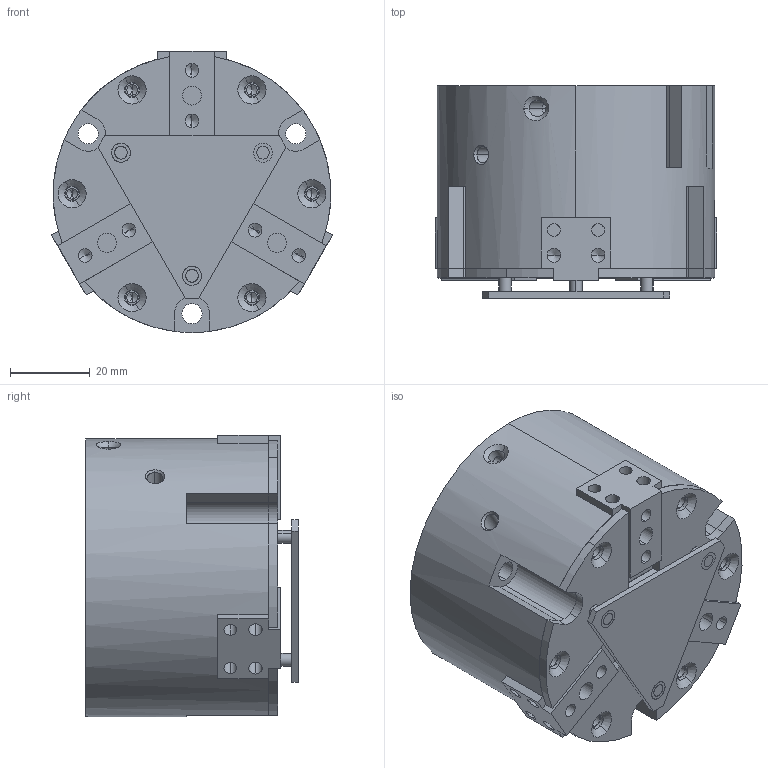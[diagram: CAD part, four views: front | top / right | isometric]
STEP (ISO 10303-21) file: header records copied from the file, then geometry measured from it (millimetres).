
FILE_DESCRIPTION (( 'STEP AP203' ), '1' );
FILE_NAME ('AGP-43 CLOSED in MM.STEP', '2014-11-05T14:15:39', ( 'setup' ), ( '' ), 'SwSTEP 2.0', 'SolidWorks 2013', '' );
FILE_SCHEMA (( 'CONFIG_CONTROL_DESIGN' ));
Length unit declared in the file: millimetre
Products named in the file (7): AGP-43 JAW; AGP-43 PIN; AGP-43 CLOSED in MM; AGP-43 STRIPPER; AGP-43 BUSHING; AGP-43 BODY; AGP-43 CAP
Assembly tree (12 placements, depth 2):
  AGP-43 CLOSED in MM
    AGP-43 BODY
    AGP-43 CAP
    AGP-43 JAW  x3
    AGP-43 PIN  x3
    AGP-43 STRIPPER
    AGP-43 BUSHING  x3
Bounding box: 70.76 x 53.43 x 70.74 mm (x, y, z)
Volume: 169116.4 mm3; surface area: 41428.3 mm2
Topology: 12 solids, 12 shells, 325 faces, 791 edges, 487 vertices
Faces by surface type: cylinder 140, plane 127, cone 54, bspline 4
Entity records: 8147 total; most frequent: CARTESIAN_POINT 1619, DIRECTION 1245, ORIENTED_EDGE 1106, EDGE_CURVE 553, AXIS2_PLACEMENT_3D 464, VERTEX_POINT 359, LINE 317, VECTOR 317
